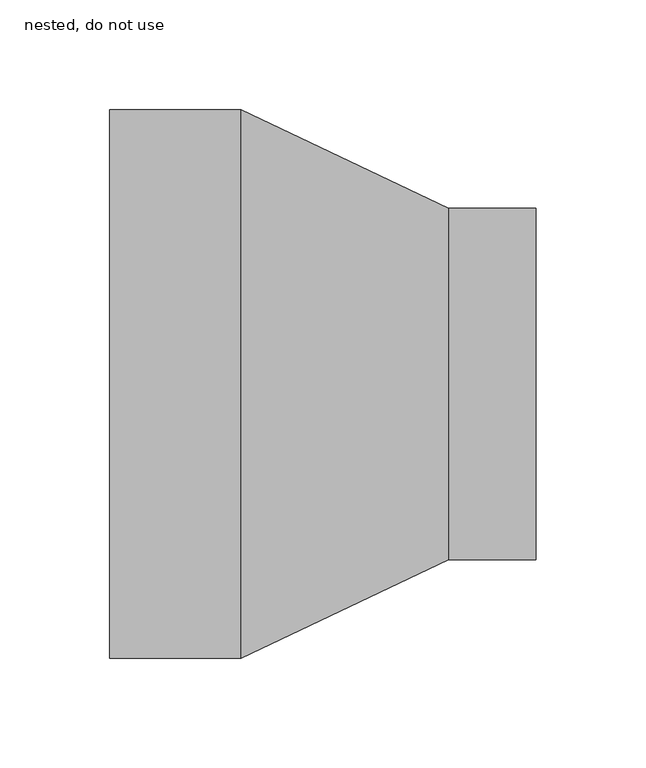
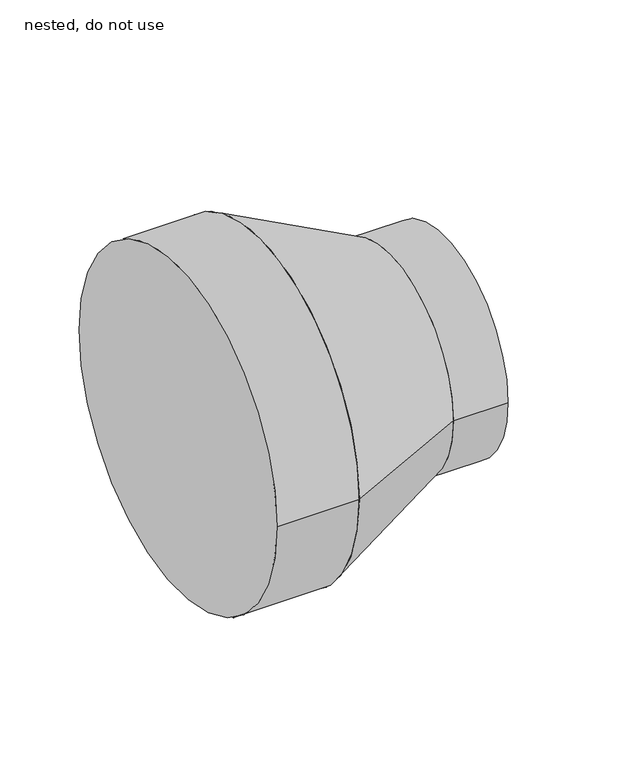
"""IFC4 building model written with IfcOpenShell, lengths in millimetres: pipe fitting geometry, ZZZ_do no use_PIF_HDPE reducer -SH_Akatherm : nested, do not use."""

from ifc_helpers import new_model, si_unit, point, frame, origin, origin_2d, place, context, project, spatial, polyline, circle_curve, trimmed, segment, composite_curve, outline, extrude, source, transform, mapped, element, save
from ifc_brep_helpers import plane_surface, revolved_surface, advanced_brep


def nested_do_not_use_f3a1de72(model_context):
    return source(origin(), model_context, "Body", "SolidModel", [
        advanced_brep(
        [(57.25, -80.0, 0.0), (57.25, 80.0, 0.0), (-37.25, -125.0, 0.0), (-37.25, 125.0, 0.0)],
        [
            (0, 1, circle_curve(frame((57.25, 0.0, 0.0), z_axis=(1.0, 0.0, 0.0), x_axis=(0.0, -1.0, 0.0)), 80.0)),
            (1, 0, circle_curve(frame((57.25, 0.0, 0.0), z_axis=(1.0, 0.0, 0.0), x_axis=(0.0, 1.0, 0.0)), 80.0)),
            (2, 3, circle_curve(frame((-37.25, 0.0, 0.0), z_axis=(-1.0, 0.0, 0.0), x_axis=(0.0, 1.0, 0.0)), 125.0)),
            (3, 2, circle_curve(frame((-37.25, 0.0, 0.0), z_axis=(-1.0, 0.0, 0.0), x_axis=(0.0, -1.0, 0.0)), 125.0)),
            (3, 1),
            (0, 2),
        ],
        [
            plane_surface(frame((57.25, 0.0, 0.0), z_axis=(1.0, 0.0, 0.0), x_axis=(0.0, 0.0, -1.0))),
            plane_surface(frame((-37.25, 0.0, 0.0), z_axis=(-1.0, 0.0, 0.0), x_axis=(0.0, 0.0, -1.0))),
            revolved_surface(polyline([(57.25, -80.0, 0.0), (-37.25, -125.0, 0.0)]), (225.25, 0.0, 0.0), (-1.0, 0.0, 0.0)),
            revolved_surface(polyline([(57.25, 80.0, 0.0), (-37.25, 125.0, 0.0)]), (225.25, 0.0, 0.0), (-1.0, 0.0, 0.0)),
        ],
        [
            (0, [[1, 2]]),
            (1, [[3, 4]]),
            (2, [[-4, 5, -1, 6]]),
            (3, [[-3, -6, -2, -5]]),
        ],
    ),
        extrude(outline(composite_curve([segment(trimmed(circle_curve(origin_2d(), 80.0), [point((-80.0, 0.0))], [point((80.0, 0.0))], False, "CARTESIAN"), True, "CONTINUOUS"), segment(trimmed(circle_curve(origin_2d(), 80.0), [point((80.0, 0.0))], [point((-80.0, 0.0))], False, "CARTESIAN"), True, "CONTINUOUS")], self_intersect=False)), frame((57.25, 0.0, 0.0), z_axis=(1.0, 0.0, 0.0), x_axis=(0.0, 1.0, 0.0)), (0.0, 0.0, 1.0), 40.0),
        extrude(outline(composite_curve([segment(trimmed(circle_curve(origin_2d(), 125.0), [point((-125.0, 0.0))], [point((125.0, 0.0))], False, "CARTESIAN"), True, "CONTINUOUS"), segment(trimmed(circle_curve(origin_2d(), 125.0), [point((125.0, 0.0))], [point((-125.0, 0.0))], False, "CARTESIAN"), True, "CONTINUOUS")], self_intersect=False)), frame((-97.25, 0.0, 0.0), z_axis=(1.0, 0.0, 0.0), x_axis=(0.0, 1.0, 0.0)), (0.0, 0.0, 1.0), 60.0),
    ])


if __name__ == "__main__":
    model = new_model("IFC4")
    model_context = context("Model", 3, world=origin())
    ifc_project = project(units=[si_unit("LENGTHUNIT", "METRE", prefix="MILLI")], contexts=[model_context])
    site = spatial("IfcSite", under=ifc_project)
    building = spatial("IfcBuilding", under=site)
    placement = place(None, origin())
    nested_do_not_use_shape = nested_do_not_use_f3a1de72(model_context)
    element("IfcPipeFitting", 1, ObjectType="ZZZ_do no use_PIF_HDPE reducer -SH_Akatherm : nested, do not use", at=placement, inside=building, context=model_context, shape_type="MappedRepresentation", body=[
        mapped(nested_do_not_use_shape, transform((0.0, 0.0, 0.0), x_axis=(1.0, 0.0, 0.0), y_axis=(0.0, 1.0, 0.0), z_axis=(0.0, 0.0, 1.0))),
    ])
    save(model, "model.ifc")
